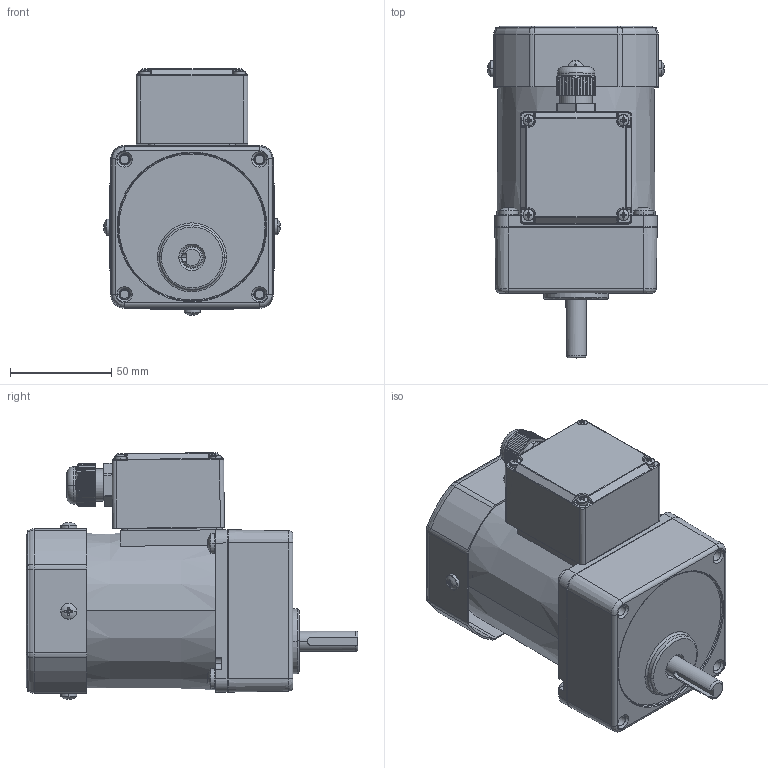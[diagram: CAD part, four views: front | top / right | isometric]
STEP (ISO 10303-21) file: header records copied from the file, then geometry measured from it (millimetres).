
FILE_DESCRIPTION (( 'STEP AP203' ), '1' );
FILE_NAME ('4IK25GN-CFT(4GN3K-18K).STEP', '2022-10-28T05:09:26', ( 'Windows User' ), ( 'P R C' ), 'SwSTEP 2.0', 'SolidWorks 2019', '' );
FILE_SCHEMA (( 'CONFIG_CONTROL_DESIGN' ));
Length unit declared in the file: millimetre
Products named in the file (16): 4IK25GN-CFT(4GN3K-18K)(2)^4IK25GN-CFT(4GN3K-18K); 4IK25GN-CFT(4GN3K-18K); 葩璃 (3) ^_4IK25A-CT.STEP_4IK40GN-CFT.STEP_4IK40GN-CFT_4IK25GN-CFT(4GN3K-18K)(2)_4IK25GN-CFT(4GN3K-18K); 葩璃 (2) ^_4IK25A-CT.STEP_4IK40GN-CFT.STEP_4IK40GN-CFT_4IK25GN-CFT(4GN3K-18K)(2)_4IK25GN-CFT(4GN3K-18K); M5^4IK25GN-CFT(4GN3K-18K)(2)_4IK25GN-CFT(4GN3K-18K); M4.STEP^4IK40GN-CFT.STEP_4IK40GN-CFT_4IK25GN-CFT(4GN3K-18K)(2)_4IK25GN-CFT(4GN3K-18K); 葩璃 (4) ^_4IK25A-CT.STEP_4IK40GN-CFT.STEP_4IK40GN-CFT_4IK25GN-CFT(4GN3K-18K)(2)_4IK25GN-CFT(4GN3K-18K); 4IK40GN-CFT^4IK25GN-CFT(4GN3K-18K)(2)_4IK25GN-CFT(4GN3K-18K); ^_4IK25A-CT.STEP_4IK40GN-CFT.STEP_4IK40GN-CFT_4IK25GN-CFT(4GN3K-18K)(2)_4IK25GN-CFT(4GN3K-18K); 4IK25A-CT.STEP^4IK40GN-CFT.STEP_4IK40GN-CFT_4IK25GN-CFT(4GN3K-18K)(2)_4IK25GN-CFT(4GN3K-18K); 80FZ.STEP^4IK40GN-CFT.STEP_4IK40GN-CFT_4IK25GN-CFT(4GN3K-18K)(2)_4IK25GN-CFT(4GN3K-18K); ^4IK25A-CT.STEP_4IK40GN-CFT.STEP_4IK40GN-CFT_4IK25GN-CFT(4GN3K-18K)(2)_4IK25GN-CFT(4GN3K-18K); 4GN3K-18K; 葩璃 (6) ^_4IK25A-CT.STEP_4IK40GN-CFT.STEP_4IK40GN-CFT_4IK25GN-CFT(4GN3K-18K)(2)_4IK25GN-CFT(4GN3K-18K); 4IK40GN-CFT.STEP^4IK40GN-CFT_4IK25GN-CFT(4GN3K-18K)(2)_4IK25GN-CFT(4GN3K-18K); 葩璃 (5) ^_4IK25A-CT.STEP_4IK40GN-CFT.STEP_4IK40GN-CFT_4IK25GN-CFT(4GN3K-18K)(2)_4IK25GN-CFT(4GN3K-18K)
Assembly tree (21 placements, depth 7):
  4IK25GN-CFT(4GN3K-18K)
    4IK25GN-CFT(4GN3K-18K)(2)^4IK25GN-CFT(4GN3K-18K)
      4IK40GN-CFT^4IK25GN-CFT(4GN3K-18K)(2)_4IK25GN-CFT(4GN3K-18K)
        4IK40GN-CFT.STEP^4IK40GN-CFT_4IK25GN-CFT(4GN3K-18K)(2)_4IK25GN-CFT(4GN3K-18K)
          4IK25A-CT.STEP^4IK40GN-CFT.STEP_4IK40GN-CFT_4IK25GN-CFT(4GN3K-18K)(2)_4IK25GN-CFT(4GN3K-18K)
            ^4IK25A-CT.STEP_4IK40GN-CFT.STEP_4IK40GN-CFT_4IK25GN-CFT(4GN3K-18K)(2)_4IK25GN-CFT(4GN3K-18K)
              ^_4IK25A-CT.STEP_4IK40GN-CFT.STEP_4IK40GN-CFT_4IK25GN-CFT(4GN3K-18K)(2)_4IK25GN-CFT(4GN3K-18K)
              葩璃 (2) ^_4IK25A-CT.STEP_4IK40GN-CFT.STEP_4IK40GN-CFT_4IK25GN-CFT(4GN3K-18K)(2)_4IK25GN-CFT(4GN3K-18K)
              葩璃 (3) ^_4IK25A-CT.STEP_4IK40GN-CFT.STEP_4IK40GN-CFT_4IK25GN-CFT(4GN3K-18K)(2)_4IK25GN-CFT(4GN3K-18K)
              葩璃 (4) ^_4IK25A-CT.STEP_4IK40GN-CFT.STEP_4IK40GN-CFT_4IK25GN-CFT(4GN3K-18K)(2)_4IK25GN-CFT(4GN3K-18K)
              葩璃 (5) ^_4IK25A-CT.STEP_4IK40GN-CFT.STEP_4IK40GN-CFT_4IK25GN-CFT(4GN3K-18K)(2)_4IK25GN-CFT(4GN3K-18K)
              葩璃 (6) ^_4IK25A-CT.STEP_4IK40GN-CFT.STEP_4IK40GN-CFT_4IK25GN-CFT(4GN3K-18K)(2)_4IK25GN-CFT(4GN3K-18K)
          80FZ.STEP^4IK40GN-CFT.STEP_4IK40GN-CFT_4IK25GN-CFT(4GN3K-18K)(2)_4IK25GN-CFT(4GN3K-18K)
          M4.STEP^4IK40GN-CFT.STEP_4IK40GN-CFT_4IK25GN-CFT(4GN3K-18K)(2)_4IK25GN-CFT(4GN3K-18K)  x4
      M5^4IK25GN-CFT(4GN3K-18K)(2)_4IK25GN-CFT(4GN3K-18K)  x4
    4GN3K-18K
Bounding box: 87.04 x 163.5 x 121.47 mm (x, y, z)
Volume: 456291.3 mm3; surface area: 131127.5 mm2
Topology: 16 solids, 17 shells, 2648 faces, 7011 edges, 4389 vertices
Faces by surface type: cone 1104, cylinder 800, plane 597, torus 86, sphere 32, bspline 29
Entity records: 56339 total; most frequent: CARTESIAN_POINT 12735, DIRECTION 9200, ORIENTED_EDGE 8632, EDGE_CURVE 4316, AXIS2_PLACEMENT_3D 3560, VERTEX_POINT 2739, VECTOR 2080, LINE 2080
